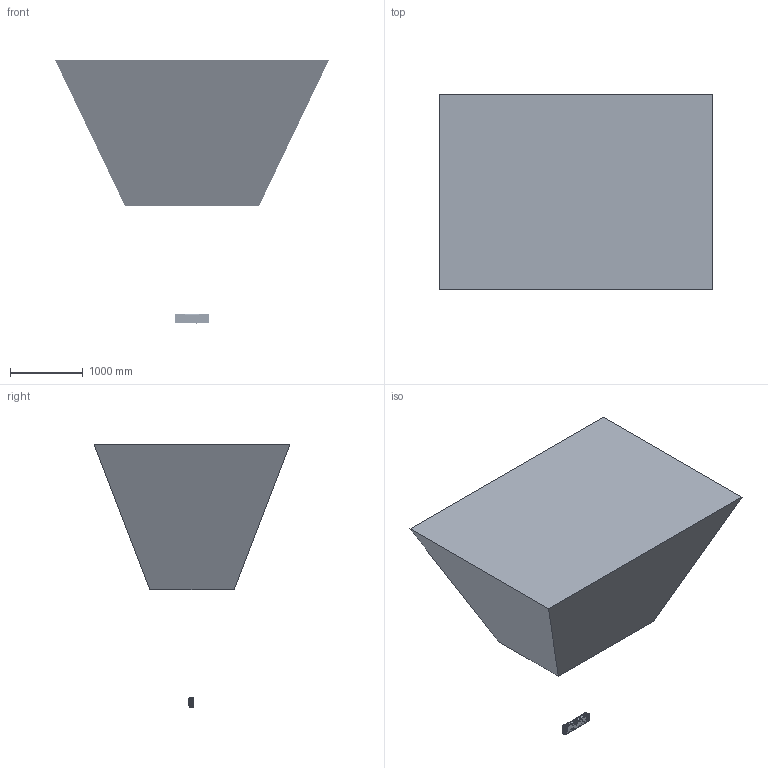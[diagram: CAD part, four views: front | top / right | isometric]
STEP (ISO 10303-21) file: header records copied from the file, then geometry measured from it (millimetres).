
FILE_DESCRIPTION (( 'STEP AP203' ), '1' );
FILE_NAME ('DF-FINCH-W-2002-FOV (1).STEP', '2025-11-25T07:34:44', ( 'PC' ), ( 'Microsoft' ), 'SwSTEP 2.0', 'SolidWorks 2024', '' );
FILE_SCHEMA (( 'CONFIG_CONTROL_DESIGN' ));
Length unit declared in the file: millimetre
Products named in the file (51): 8-M12; 20032-A.SLDPRT; MB-CS020_ASM; 2003YAKOU.SLDPRT; 2002-YOU.SLDPRT; 2024527.SLDPRT; COMS-A.SLDPRT; 2003JIGUANG.SLDPRT; MV-CB016_ASM.SLDASM; LED_ASM.SLDASM; 8-90; LOUMOS-PCB_ASM.SLDASM; MV-CS020; 6063-LED.SLDPRT; 2002-ZUO_ASM.SLDASM; 2002-ZUO.SLDPRT; TF-2003.SLDPRT; 2002-ZJ-PCB.SLDPRT; M0828-MPW3; LVGUANGPIAN; LOUMOS-PCB.SLDPRT; MV-CB016-10UMUC-S.SLDPRT; LED-PCB.SLDPRT; BAS-CHUFA; 155-0746-000_1; 2002-YOU_ASM.SLDASM; MANIFOLD_SOLID_BREP_53450; LVGUANGPIAN--39; MVL-HF0624M-10MP; USB3.SLDPRT; 8-90_ASM; 142-63448-1GEN_A00_1; 2002-ZHENGJING.SLDPRT; LUMOS-PAC_ASM.SLDASM; 2003SANRIQI_ASM.SLDASM; DC24.SLDPRT; 36X28X2.SLDPRT; LUMOS-PCB20240515.SLDPRT; DF-FINCH-W-2002-FOV (1); MER-230-168U3M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
Assembly tree (69 placements, depth 4):
  DF-FINCH-W-2002-FOV (1)
    2003SANRIQI_ASM.SLDASM
      2003SANRIQI.SLDPRT
      2003JIGUANG.SLDPRT
      2002-ZHENGJING.SLDPRT
      2003YAKOU.SLDPRT
      2024527.SLDPRT
    2002-YOU_ASM.SLDASM
      DAHENG-COMS_ASM
        MER-230-168U3M
        0628
        LVGUANGPIAN--39
      MB-CS020_ASM
        MV-CS020
        MVL-HF0624M-10MP
      2002-YOU.SLDPRT
      COMS-BASLER
      M0828-MPW3
      LVGUANGPIAN
      BAS-CHUFA
    2002-ZUO_ASM.SLDASM
      DAHENG-COMS_ASM
        MER-230-168U3M
        0628
        LVGUANGPIAN--39
      MB-CS020_ASM
        MV-CS020
        MVL-HF0624M-10MP
      2002-ZUO.SLDPRT
      COMS-BASLER
      M0828-MPW3
      LVGUANGPIAN
      BAS-CHUFA
    MV-CB016_ASM.SLDASM
      MV-6063.SLDPRT
      MV-CB016-10UMUC-S.SLDPRT
      COMS-A.SLDPRT
      TF-2003.SLDPRT
    LOUMOS-PCB_ASM.SLDASM
      8-90_ASM
        8-90
        8-M12
        8-M12-A
      LOUMOS-PCB.SLDPRT
      MANIFOLD_SOLID_BREP_53450
      155-0746-000_1  x2
      142-63448-1GEN_A00_1
      USB3.SLDPRT  x2
      USB30.SLDPRT  x2
    LED_ASM.SLDASM
      6063-LED.SLDPRT
      LED-PCB.SLDPRT
    LUMOS-PAC_ASM.SLDASM
      8-90_ASM
        8-90
        8-M12
        8-M12-A
      LUMOS-PCB20240515.SLDPRT
      MANIFOLD_SOLID_BREP_53450
      155-0746-000_1  x2
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Bounding box: 3767.24 x 2696.9 x 3627.3 mm (x, y, z)
Topology: 64 solids, 113 shells, 13523 faces, 35946 edges, 23025 vertices
Faces by surface type: plane 7293, cylinder 3916, cone 1091, bspline 816, torus 347, sphere 60
Full cylindrical faces by diameter (mm): 2 x2
Entity records: 319303 total; most frequent: CARTESIAN_POINT 98115, ORIENTED_EDGE 47450, DIRECTION 40933, EDGE_CURVE 23725, VERTEX_POINT 15138, AXIS2_PLACEMENT_3D 13999, LINE 12935, VECTOR 12935
